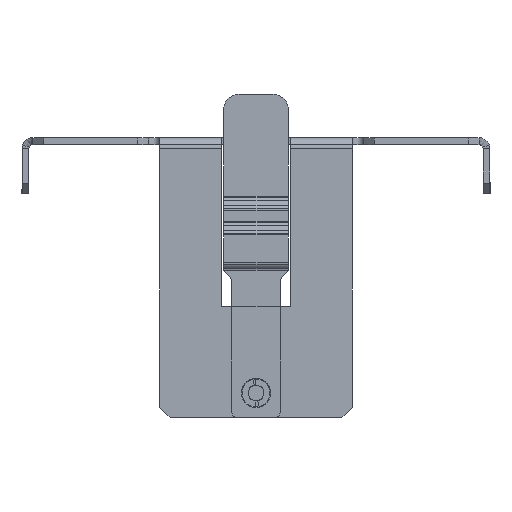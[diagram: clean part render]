
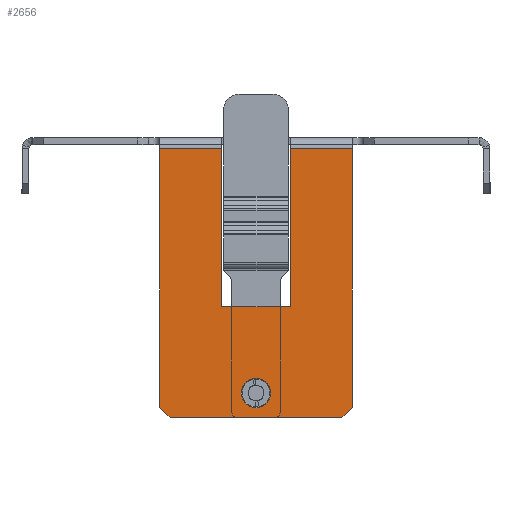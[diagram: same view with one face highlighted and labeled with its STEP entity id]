
A CAD part, left-side view. The second image highlights one B-rep face of the part: STEP entity #2656.
In plain terms, the highlighted planar face has unit normal (-1, 0, 0).
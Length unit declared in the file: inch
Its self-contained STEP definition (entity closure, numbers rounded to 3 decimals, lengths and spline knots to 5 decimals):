
#2 = DIRECTION ( 'NONE',  ( 0., 0., 1. ) ) ;
#8 = LINE ( 'NONE', #406, #1430 ) ;
#73 = ORIENTED_EDGE ( 'NONE', *, *, #2586, .F. ) ;
#153 = CIRCLE ( 'NONE', #5218, 0.1175 ) ;
#183 = ORIENTED_EDGE ( 'NONE', *, *, #4218, .T. ) ;
#199 = VERTEX_POINT ( 'NONE', #3012 ) ;
#307 = CARTESIAN_POINT ( 'NONE',  ( -10.6, 0.275, -0.032 ) ) ;
#312 = LINE ( 'NONE', #4944, #1997 ) ;
#406 = CARTESIAN_POINT ( 'NONE',  ( -10.6, 0.775, -0.032 ) ) ;
#467 = CARTESIAN_POINT ( 'NONE',  ( -10.6, 0., -2.194 ) ) ;
#548 = DIRECTION ( 'NONE',  ( 0., 0., 1. ) ) ;
#573 = VERTEX_POINT ( 'NONE', #3186 ) ;
#604 = VERTEX_POINT ( 'NONE', #3257 ) ;
#646 = EDGE_LOOP ( 'NONE', ( #3535, #3090 ) ) ;
#702 = CARTESIAN_POINT ( 'NONE',  ( -10.6, 0., -1.994 ) ) ;
#920 = EDGE_LOOP ( 'NONE', ( #1686, #4510, #3812, #4531, #183, #1464, #2322, #4418, #73, #3158 ) ) ;
#939 = DIRECTION ( 'NONE',  ( 1., 0., 0. ) ) ;
#945 = CARTESIAN_POINT ( 'NONE',  ( -10.6, 0.775, -2.109 ) ) ;
#963 = FACE_OUTER_BOUND ( 'NONE', #920, .T. ) ;
#1035 = CIRCLE ( 'NONE', #1236, 0.1175 ) ;
#1077 = CARTESIAN_POINT ( 'NONE',  ( -10.6, 0.69, -2.194 ) ) ;
#1133 = EDGE_CURVE ( 'NONE', #2955, #3398, #2612, .T. ) ;
#1236 = AXIS2_PLACEMENT_3D ( 'NONE', #1359, #3978, #548 ) ;
#1250 = VERTEX_POINT ( 'NONE', #4609 ) ;
#1309 = VECTOR ( 'NONE', #4268, 39.37008 ) ;
#1359 = CARTESIAN_POINT ( 'NONE',  ( -10.6, 0., -1.994 ) ) ;
#1369 = LINE ( 'NONE', #467, #5051 ) ;
#1413 = CARTESIAN_POINT ( 'NONE',  ( -10.6, -0.69, -2.194 ) ) ;
#1430 = VECTOR ( 'NONE', #2982, 39.37008 ) ;
#1464 = ORIENTED_EDGE ( 'NONE', *, *, #2468, .T. ) ;
#1629 = EDGE_CURVE ( 'NONE', #573, #604, #4388, .T. ) ;
#1686 = ORIENTED_EDGE ( 'NONE', *, *, #2703, .F. ) ;
#1689 = CARTESIAN_POINT ( 'NONE',  ( -10.6, -0.275, -1.302 ) ) ;
#1694 = DIRECTION ( 'NONE',  ( 0., 0., 1. ) ) ;
#1701 = VERTEX_POINT ( 'NONE', #307 ) ;
#1707 = CARTESIAN_POINT ( 'NONE',  ( -10.6, 0.275, 0.298 ) ) ;
#1733 = DIRECTION ( 'NONE',  ( 0., 1., 0. ) ) ;
#1821 = EDGE_CURVE ( 'NONE', #604, #1250, #3425, .T. ) ;
#1857 = VECTOR ( 'NONE', #1694, 39.37008 ) ;
#1886 = EDGE_CURVE ( 'NONE', #5114, #4682, #1035, .T. ) ;
#1961 = VERTEX_POINT ( 'NONE', #1077 ) ;
#1997 = VECTOR ( 'NONE', #3385, 39.37008 ) ;
#2160 = DIRECTION ( 'NONE',  ( 0., 1., 0. ) ) ;
#2166 = CARTESIAN_POINT ( 'NONE',  ( -10.6, 0., 0. ) ) ;
#2223 = EDGE_CURVE ( 'NONE', #1961, #2968, #3971, .T. ) ;
#2230 = CARTESIAN_POINT ( 'NONE',  ( -10.6, 0., -1.8765 ) ) ;
#2296 = EDGE_CURVE ( 'NONE', #4682, #5114, #153, .T. ) ;
#2322 = ORIENTED_EDGE ( 'NONE', *, *, #3565, .F. ) ;
#2384 = FACE_BOUND ( 'NONE', #646, .T. ) ;
#2468 = EDGE_CURVE ( 'NONE', #1701, #199, #8, .T. ) ;
#2586 = EDGE_CURVE ( 'NONE', #3398, #1961, #1369, .T. ) ;
#2593 = LINE ( 'NONE', #5242, #4238 ) ;
#2612 = LINE ( 'NONE', #4530, #4798 ) ;
#2639 = CARTESIAN_POINT ( 'NONE',  ( -10.6, -0.775, -2.109 ) ) ;
#2656 = ADVANCED_FACE ( 'NONE', ( #2384, #963 ), #3127, .F. ) ;
#2703 = EDGE_CURVE ( 'NONE', #3525, #2955, #2593, .T. ) ;
#2806 = VECTOR ( 'NONE', #4261, 39.37008 ) ;
#2893 = DIRECTION ( 'NONE',  ( -1., 0., 0. ) ) ;
#2955 = VERTEX_POINT ( 'NONE', #2639 ) ;
#2968 = VERTEX_POINT ( 'NONE', #945 ) ;
#2982 = DIRECTION ( 'NONE',  ( 0., 1., 0. ) ) ;
#3012 = CARTESIAN_POINT ( 'NONE',  ( -10.6, 0.775, -0.032 ) ) ;
#3079 = LINE ( 'NONE', #3381, #1309 ) ;
#3090 = ORIENTED_EDGE ( 'NONE', *, *, #1886, .F. ) ;
#3127 = PLANE ( 'NONE',  #4131 ) ;
#3158 = ORIENTED_EDGE ( 'NONE', *, *, #1133, .F. ) ;
#3182 = DIRECTION ( 'NONE',  ( 0., 0.707, -0.707 ) ) ;
#3186 = CARTESIAN_POINT ( 'NONE',  ( -10.6, -0.275, -0.032 ) ) ;
#3213 = CARTESIAN_POINT ( 'NONE',  ( -10.6, -0.775, -0.032 ) ) ;
#3257 = CARTESIAN_POINT ( 'NONE',  ( -10.6, -0.275, -1.302 ) ) ;
#3288 = DIRECTION ( 'NONE',  ( 0., 0.707, 0.707 ) ) ;
#3381 = CARTESIAN_POINT ( 'NONE',  ( -10.6, 0.775, -0.032 ) ) ;
#3385 = DIRECTION ( 'NONE',  ( 0., 0., 1. ) ) ;
#3398 = VERTEX_POINT ( 'NONE', #1413 ) ;
#3425 = LINE ( 'NONE', #1689, #4853 ) ;
#3525 = VERTEX_POINT ( 'NONE', #3213 ) ;
#3535 = ORIENTED_EDGE ( 'NONE', *, *, #2296, .F. ) ;
#3565 = EDGE_CURVE ( 'NONE', #2968, #199, #312, .T. ) ;
#3695 = CARTESIAN_POINT ( 'NONE',  ( -10.6, 0., -2.1115 ) ) ;
#3812 = ORIENTED_EDGE ( 'NONE', *, *, #1629, .T. ) ;
#3971 = LINE ( 'NONE', #4156, #4246 ) ;
#3978 = DIRECTION ( 'NONE',  ( -1., 0., 0. ) ) ;
#4131 = AXIS2_PLACEMENT_3D ( 'NONE', #2166, #939, #2 ) ;
#4156 = CARTESIAN_POINT ( 'NONE',  ( -10.6, 0.775, -2.109 ) ) ;
#4218 = EDGE_CURVE ( 'NONE', #1250, #1701, #4594, .T. ) ;
#4238 = VECTOR ( 'NONE', #5226, 39.37008 ) ;
#4246 = VECTOR ( 'NONE', #3288, 39.37008 ) ;
#4261 = DIRECTION ( 'NONE',  ( 0., 0., -1. ) ) ;
#4268 = DIRECTION ( 'NONE',  ( 0., 1., 0. ) ) ;
#4388 = LINE ( 'NONE', #5068, #2806 ) ;
#4418 = ORIENTED_EDGE ( 'NONE', *, *, #2223, .F. ) ;
#4510 = ORIENTED_EDGE ( 'NONE', *, *, #5035, .T. ) ;
#4530 = CARTESIAN_POINT ( 'NONE',  ( -10.6, -0.69, -2.194 ) ) ;
#4531 = ORIENTED_EDGE ( 'NONE', *, *, #1821, .T. ) ;
#4594 = LINE ( 'NONE', #1707, #1857 ) ;
#4609 = CARTESIAN_POINT ( 'NONE',  ( -10.6, 0.275, -1.302 ) ) ;
#4682 = VERTEX_POINT ( 'NONE', #3695 ) ;
#4798 = VECTOR ( 'NONE', #3182, 39.37008 ) ;
#4853 = VECTOR ( 'NONE', #2160, 39.37008 ) ;
#4944 = CARTESIAN_POINT ( 'NONE',  ( -10.6, 0.775, 0. ) ) ;
#5035 = EDGE_CURVE ( 'NONE', #3525, #573, #3079, .T. ) ;
#5051 = VECTOR ( 'NONE', #1733, 39.37008 ) ;
#5064 = DIRECTION ( 'NONE',  ( 0., 0., 1. ) ) ;
#5068 = CARTESIAN_POINT ( 'NONE',  ( -10.6, -0.275, 0.298 ) ) ;
#5114 = VERTEX_POINT ( 'NONE', #2230 ) ;
#5218 = AXIS2_PLACEMENT_3D ( 'NONE', #702, #2893, #5064 ) ;
#5226 = DIRECTION ( 'NONE',  ( 0., 0., -1. ) ) ;
#5242 = CARTESIAN_POINT ( 'NONE',  ( -10.6, -0.775, 0. ) ) ;
